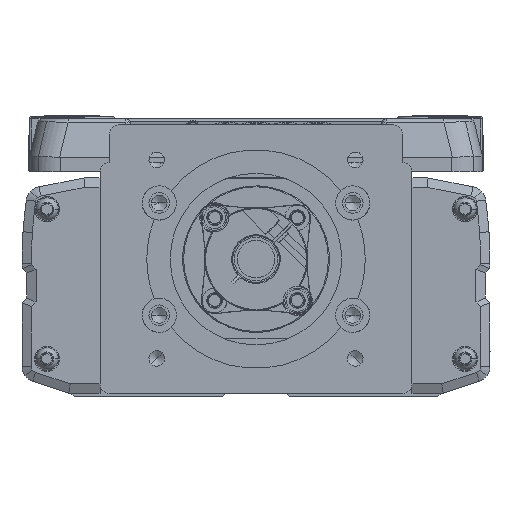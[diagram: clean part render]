
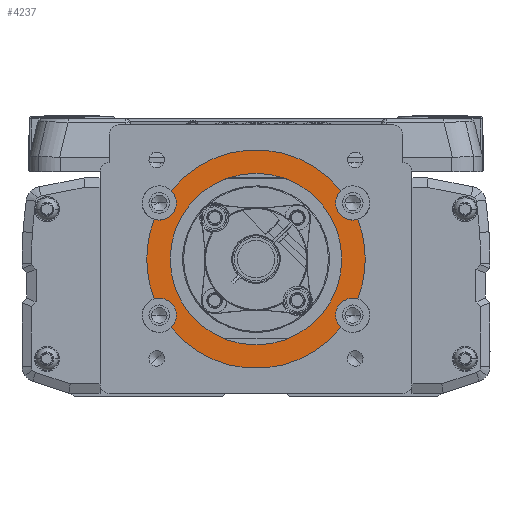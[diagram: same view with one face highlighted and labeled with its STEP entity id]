
A CAD part, left-side view. The second image highlights one B-rep face of the part: STEP entity #4237.
In plain terms, the highlighted planar face has unit normal (-1, 0, 0).
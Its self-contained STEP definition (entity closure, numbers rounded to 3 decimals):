
#4237=ADVANCED_FACE('',(#11095,#11096),#11097,.F.);
#11095=FACE_OUTER_BOUND('',#21526,.T.);
#11096=FACE_BOUND('',#21527,.T.);
#11097=PLANE('',#21528);
#21526=EDGE_LOOP('',(#34223,#34224,#34225,#34226,#34227,#34228,#34229,#34230,#34231,#34232,#34233,#34234,#34235,#34236));
#21527=EDGE_LOOP('',(#34237,#34238));
#21528=AXIS2_PLACEMENT_3D('',#34239,#34240,#34241);
#34223=ORIENTED_EDGE('',*,*,#62201,.F.);
#34224=ORIENTED_EDGE('',*,*,#61622,.T.);
#34225=ORIENTED_EDGE('',*,*,#62202,.T.);
#34226=ORIENTED_EDGE('',*,*,#62203,.F.);
#34227=ORIENTED_EDGE('',*,*,#62204,.F.);
#34228=ORIENTED_EDGE('',*,*,#62205,.T.);
#34229=ORIENTED_EDGE('',*,*,#62206,.F.);
#34230=ORIENTED_EDGE('',*,*,#62207,.F.);
#34231=ORIENTED_EDGE('',*,*,#62208,.T.);
#34232=ORIENTED_EDGE('',*,*,#62209,.T.);
#34233=ORIENTED_EDGE('',*,*,#62210,.F.);
#34234=ORIENTED_EDGE('',*,*,#62211,.F.);
#34235=ORIENTED_EDGE('',*,*,#62212,.T.);
#34236=ORIENTED_EDGE('',*,*,#62213,.F.);
#34237=ORIENTED_EDGE('',*,*,#62214,.F.);
#34238=ORIENTED_EDGE('',*,*,#61707,.F.);
#34239=CARTESIAN_POINT('',(-69.,0.,0.));
#34240=DIRECTION('',(1.0,0.,0.));
#34241=DIRECTION('',(0.,1.0,0.));
#61622=EDGE_CURVE('',#73194,#73191,#73195,.T.);
#61707=EDGE_CURVE('',#73348,#73350,#73351,.T.);
#62201=EDGE_CURVE('',#73194,#74226,#74227,.T.);
#62202=EDGE_CURVE('',#73191,#74228,#74229,.T.);
#62203=EDGE_CURVE('',#74230,#74228,#74231,.T.);
#62204=EDGE_CURVE('',#74232,#74230,#74233,.T.);
#62205=EDGE_CURVE('',#74232,#74234,#74235,.T.);
#62206=EDGE_CURVE('',#74236,#74234,#74237,.T.);
#62207=EDGE_CURVE('',#74238,#74236,#74239,.T.);
#62208=EDGE_CURVE('',#74238,#74240,#74241,.T.);
#62209=EDGE_CURVE('',#74240,#74242,#74243,.T.);
#62210=EDGE_CURVE('',#74244,#74242,#74245,.T.);
#62211=EDGE_CURVE('',#74246,#74244,#74247,.T.);
#62212=EDGE_CURVE('',#74246,#74248,#74249,.T.);
#62213=EDGE_CURVE('',#74226,#74248,#74250,.T.);
#62214=EDGE_CURVE('',#73350,#73348,#74251,.T.);
#73191=VERTEX_POINT('',#89884);
#73194=VERTEX_POINT('',#89888);
#73195=CIRCLE('',#89889,35.0);
#73348=VERTEX_POINT('',#90109);
#73350=VERTEX_POINT('',#90112);
#73351=CIRCLE('',#90113,27.5);
#74226=VERTEX_POINT('',#91289);
#74227=CIRCLE('',#91290,5.5);
#74228=VERTEX_POINT('',#91291);
#74229=CIRCLE('',#91292,35.0);
#74230=VERTEX_POINT('',#91293);
#74231=CIRCLE('',#91294,5.5);
#74232=VERTEX_POINT('',#91295);
#74233=CIRCLE('',#91296,5.5);
#74234=VERTEX_POINT('',#91297);
#74235=CIRCLE('',#91298,35.0);
#74236=VERTEX_POINT('',#91299);
#74237=CIRCLE('',#91300,5.5);
#74238=VERTEX_POINT('',#91301);
#74239=CIRCLE('',#91302,5.5);
#74240=VERTEX_POINT('',#91303);
#74241=CIRCLE('',#91304,35.0);
#74242=VERTEX_POINT('',#91305);
#74243=CIRCLE('',#91306,35.0);
#74244=VERTEX_POINT('',#91307);
#74245=CIRCLE('',#91308,5.5);
#74246=VERTEX_POINT('',#91309);
#74247=CIRCLE('',#91310,5.5);
#74248=VERTEX_POINT('',#91311);
#74249=CIRCLE('',#91312,35.0);
#74250=CIRCLE('',#91313,5.5);
#74251=CIRCLE('',#91314,27.5);
#89884=CARTESIAN_POINT('',(-69.,35.,0.));
#89888=CARTESIAN_POINT('',(-69.,32.6,12.738));
#89889=AXIS2_PLACEMENT_3D('',#113531,#113532,#113533);
#90109=CARTESIAN_POINT('',(-69.,27.5,0.));
#90112=CARTESIAN_POINT('',(-69.,-27.5,0.));
#90113=AXIS2_PLACEMENT_3D('',#113666,#113667,#113668);
#91289=CARTESIAN_POINT('',(-69.,25.5,18.));
#91290=AXIS2_PLACEMENT_3D('',#114430,#114431,#114432);
#91291=CARTESIAN_POINT('',(-69.,32.6,-12.738));
#91292=AXIS2_PLACEMENT_3D('',#114433,#114434,#114435);
#91293=CARTESIAN_POINT('',(-69.,25.5,-18.));
#91294=AXIS2_PLACEMENT_3D('',#114436,#114437,#114438);
#91295=CARTESIAN_POINT('',(-69.,27.223,-21.998));
#91296=AXIS2_PLACEMENT_3D('',#114439,#114440,#114441);
#91297=CARTESIAN_POINT('',(-69.,-27.223,-21.998));
#91298=AXIS2_PLACEMENT_3D('',#114442,#114443,#114444);
#91299=CARTESIAN_POINT('',(-69.,-25.5,-18.));
#91300=AXIS2_PLACEMENT_3D('',#114445,#114446,#114447);
#91301=CARTESIAN_POINT('',(-69.,-32.6,-12.738));
#91302=AXIS2_PLACEMENT_3D('',#114448,#114449,#114450);
#91303=CARTESIAN_POINT('',(-69.,-35.,0.));
#91304=AXIS2_PLACEMENT_3D('',#114451,#114452,#114453);
#91305=CARTESIAN_POINT('',(-69.,-32.6,12.738));
#91306=AXIS2_PLACEMENT_3D('',#114454,#114455,#114456);
#91307=CARTESIAN_POINT('',(-69.,-25.5,18.));
#91308=AXIS2_PLACEMENT_3D('',#114457,#114458,#114459);
#91309=CARTESIAN_POINT('',(-69.,-27.223,21.998));
#91310=AXIS2_PLACEMENT_3D('',#114460,#114461,#114462);
#91311=CARTESIAN_POINT('',(-69.,27.223,21.998));
#91312=AXIS2_PLACEMENT_3D('',#114463,#114464,#114465);
#91313=AXIS2_PLACEMENT_3D('',#114466,#114467,#114468);
#91314=AXIS2_PLACEMENT_3D('',#114469,#114470,#114471);
#113531=CARTESIAN_POINT('',(-69.,0.,0.));
#113532=DIRECTION('',(-1.0,0.,0.));
#113533=DIRECTION('',(0.,1.0,0.));
#113666=CARTESIAN_POINT('',(-69.,0.,0.));
#113667=DIRECTION('',(-1.0,0.,0.));
#113668=DIRECTION('',(0.,1.0,0.));
#114430=CARTESIAN_POINT('',(-69.,31.,18.));
#114431=DIRECTION('',(-1.0,0.,0.));
#114432=DIRECTION('',(0.,1.0,0.));
#114433=CARTESIAN_POINT('',(-69.,0.,0.));
#114434=DIRECTION('',(-1.0,0.,0.));
#114435=DIRECTION('',(0.,1.0,0.));
#114436=CARTESIAN_POINT('',(-69.,31.,-18.));
#114437=DIRECTION('',(-1.0,0.,0.));
#114438=DIRECTION('',(0.,1.0,0.));
#114439=CARTESIAN_POINT('',(-69.,31.,-18.));
#114440=DIRECTION('',(-1.0,0.,0.));
#114441=DIRECTION('',(0.,1.0,0.));
#114442=CARTESIAN_POINT('',(-69.,0.,0.));
#114443=DIRECTION('',(-1.0,0.,0.));
#114444=DIRECTION('',(0.,1.0,0.));
#114445=CARTESIAN_POINT('',(-69.,-31.,-18.));
#114446=DIRECTION('',(-1.0,0.,0.));
#114447=DIRECTION('',(0.,-1.0,0.));
#114448=CARTESIAN_POINT('',(-69.,-31.,-18.));
#114449=DIRECTION('',(-1.0,0.,0.));
#114450=DIRECTION('',(0.,-1.0,0.));
#114451=CARTESIAN_POINT('',(-69.,0.,0.));
#114452=DIRECTION('',(-1.0,0.,0.));
#114453=DIRECTION('',(0.,1.0,0.));
#114454=CARTESIAN_POINT('',(-69.,0.,0.));
#114455=DIRECTION('',(-1.0,0.,0.));
#114456=DIRECTION('',(0.,1.0,0.));
#114457=CARTESIAN_POINT('',(-69.,-31.,18.));
#114458=DIRECTION('',(-1.0,0.,0.));
#114459=DIRECTION('',(0.,-1.0,0.));
#114460=CARTESIAN_POINT('',(-69.,-31.,18.));
#114461=DIRECTION('',(-1.0,0.,0.));
#114462=DIRECTION('',(0.,-1.0,0.));
#114463=CARTESIAN_POINT('',(-69.,0.,0.));
#114464=DIRECTION('',(-1.0,0.,0.));
#114465=DIRECTION('',(0.,1.0,0.));
#114466=CARTESIAN_POINT('',(-69.,31.,18.));
#114467=DIRECTION('',(-1.0,0.,0.));
#114468=DIRECTION('',(0.,1.0,0.));
#114469=CARTESIAN_POINT('',(-69.,0.,0.));
#114470=DIRECTION('',(-1.0,0.,0.));
#114471=DIRECTION('',(0.,1.0,0.));
